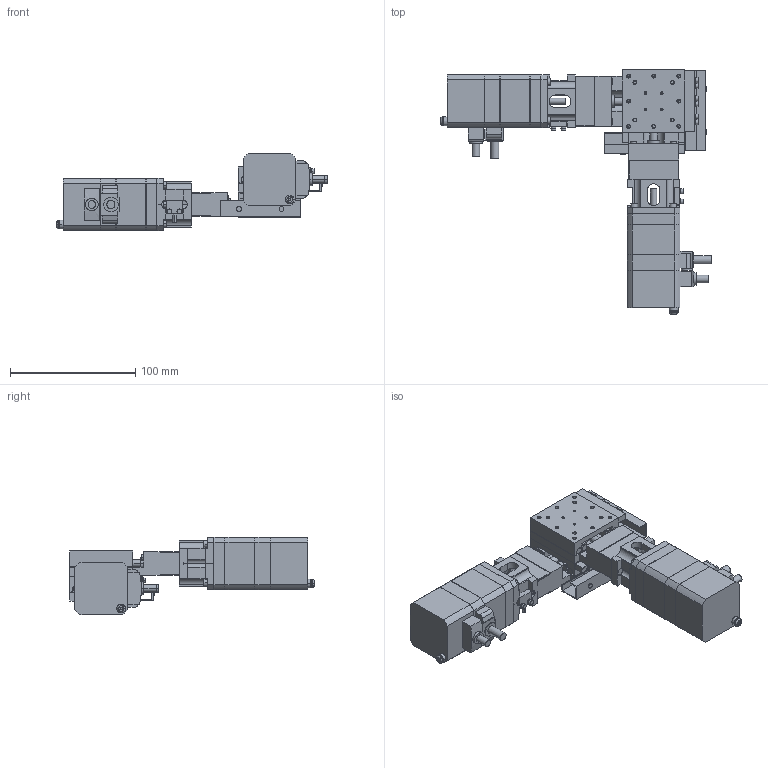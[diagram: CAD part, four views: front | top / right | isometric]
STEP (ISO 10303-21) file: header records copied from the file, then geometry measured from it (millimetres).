
FILE_DESCRIPTION(('STEP AP203'),'1');
FILE_NAME('C:/3D-Trans/3D_PMG513T-L□-MA4+240122.step','2024-03-14T08:02:20',(' '),(' '),'Spatial InterOp 3D',' ',' ');
FILE_SCHEMA(('CONFIG_CONTROL_DESIGN'));
Length unit declared in the file: millimetre
Products named in the file (12): 1; 2; 3; 4; 5; 6; 7; 8; 9; 10; 11; 12
Bounding box: 216 x 195 x 62 mm (x, y, z)
Volume: 436649.2 mm3; surface area: 124171.3 mm2
Topology: 12 solids, 12 shells, 1462 faces, 3746 edges, 2352 vertices
Faces by surface type: plane 768, cylinder 502, cone 184, torus 8
Entity records: 45084 total; most frequent: CARTESIAN_POINT 8230, DIRECTION 7830, ORIENTED_EDGE 7380, EDGE_CURVE 3690, AXIS2_PLACEMENT_3D 2714, LINE 2402, VECTOR 2402, VERTEX_POINT 2352
